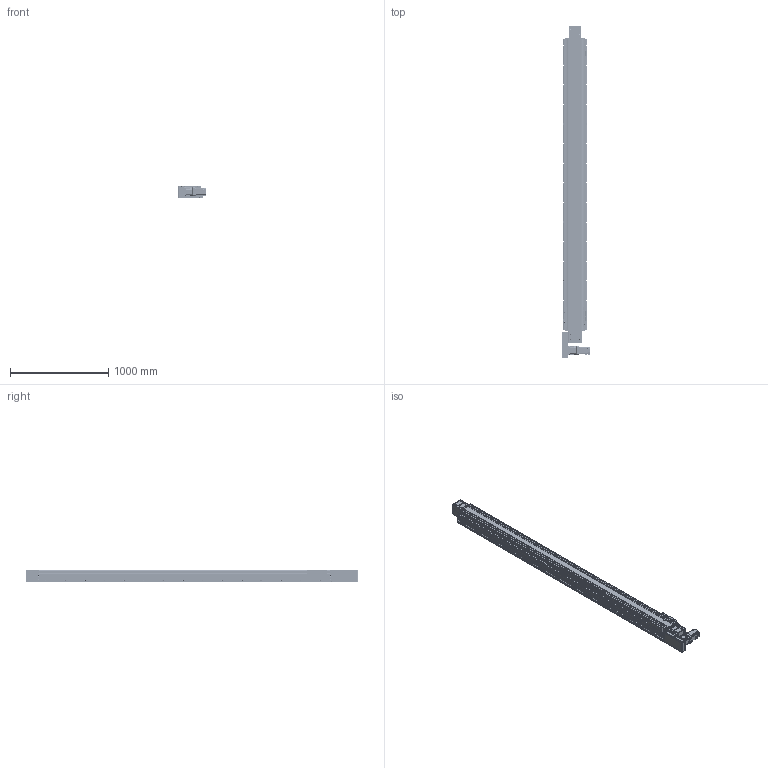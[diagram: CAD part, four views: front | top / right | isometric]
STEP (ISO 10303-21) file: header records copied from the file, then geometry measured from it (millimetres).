
FILE_DESCRIPTION(/* description */ (''),/* implementation_level */ '2;1');
FILE_NAME(/* name */ '\\192.168.0.160\disk1\HAN SHIN Master\B-설계부문\C-표준\B-2024년\BC02-표준도면\+로봇 개선표준도면\홈페이지 표준 도면\홈페이지 최종 작업 폴더\3D\HSB\HSB210\HSB210-L7G-N-2700-R.stp',/* time_stamp */ '2025-01-04T11:07:07+09:00',/* author */ ('user'),/* organization */ (''),/* preprocessor_version */ 'ST-DEVELOPER v18.1',/* originating_system */ 'Autodesk Inventor 2022',/* authorisation */ '');
FILE_SCHEMA (('AUTOMOTIVE_DESIGN { 1 0 10303 214 3 1 1 }'));
Products named in the file (37): HSB210-L7G-N-0500-R; HSB210 BASE - 2000ST; HSB210 FORNT HOUSUNG-Connecting Shaft; HSB160 SHAFT-1; HSB160 BEARING OVER; HSB210 FRONT COVER; REAR HOUSUNG-1-R1; HSB160 ARC COVER; HSB160 REAR SHAFT-2; REAR SHAFT--2; 6004ZZ; 6004ZZ Outer ring; 6004ZZ Shield1; 6004ZZ Inner ring; 6004ZZ Ball; 6004ZZ Shield2; UPCOVER; SIDE COVER; PGX90-H-1_3; HR200 SENSOR DOG; hsr_ftht_A-M6F_grease_nipple_joint; NIPPLE CAP(신규); SENSOR BRK(EE-SX674A); EE_SX674A; 6308ZZ; TENSION PLATE; HSB210 END COVER-1; HG90STOPPER - 27L; HSB210 TABLE (TEST); hg-kr73_; HSB210 L MOTOR PLATE ASSY; HG200 750W LR MOTOR PLATE-사출; 750W MOTOR PLATE; HR180,200-ACRYL COVER 2; HR180,200-ACRYL COVER; HG200-R L-BELT COVER; HR180,200-ACRYL COVER 3
Assembly tree (70 placements, depth 3):
  HSB210-L7G-N-0500-R
    HSB210 BASE - 2000ST
    HSB210 FRONT COVER  x2
    HSB210 FORNT HOUSUNG-Connecting Shaft
    HSB160 SHAFT-1
    HSB160 BEARING OVER
    HSB160 ARC COVER  x4
    REAR HOUSUNG-1-R1
    HSB160 REAR SHAFT-2
    REAR SHAFT--2
    6004ZZ  x2
      6004ZZ Outer ring
      6004ZZ Shield1
      6004ZZ Inner ring
      6004ZZ Ball
      6004ZZ Shield2
    TENSION PLATE  x2
    UPCOVER
    SIDE COVER  x2
    PGX90-H-1_3
    HG90STOPPER - 27L  x4
    HR200 SENSOR DOG
    SENSOR BRK(EE-SX674A)  x3
    EE_SX674A  x3
    NIPPLE CAP(신규)  x4
    hsr_ftht_A-M6F_grease_nipple_joint  x4
    6308ZZ  x2
    HSB210 END COVER-1
    HSB210 TABLE (TEST)
    hg-kr73_
    HSB210 L MOTOR PLATE ASSY
      HG200 750W LR MOTOR PLATE-사출
      750W MOTOR PLATE
      HR180,200-ACRYL COVER 2
      HR180,200-ACRYL COVER 3  x2
      HR180,200-ACRYL COVER
      HG200-R L-BELT COVER
Bounding box: 284.5 x 3385.5 x 131.5 mm (x, y, z)
Volume: 28536289.7 mm3; surface area: 6167029.7 mm2
Topology: 131 solids, 133 shells, 8225 faces, 22973 edges, 15161 vertices
Faces by surface type: plane 6186, cylinder 1463, cone 408, sphere 84, torus 59, bspline 25
Full cylindrical faces by diameter (mm): 2.013 x2, 2.459 x48, 3 x8, 3.2 x4, 3.242 x58, 3.4 x20, 3.5 x6, 4.134 x2, 4.2 x16, 4.5 x36, 4.917 x36, 5 x56, 5.1 x1, 5.5 x13, 5.6 x4, 5.9 x4, 6 x15, 6.5 x9, 6.6 x8, 6.647 x60, 6.8 x9, 7 x20, 7.6 x4, 8 x13, 8.433 x2, 9 x46, 9.5 x7, 10 x5, 10.106 x30, 11 x20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
Entity records: 183072 total; most frequent: CARTESIAN_POINT 35440, ORIENTED_EDGE 30592, DIRECTION 29466, EDGE_CURVE 15296, LINE 11698, VECTOR 11698, VERTEX_POINT 10192, AXIS2_PLACEMENT_3D 8884
